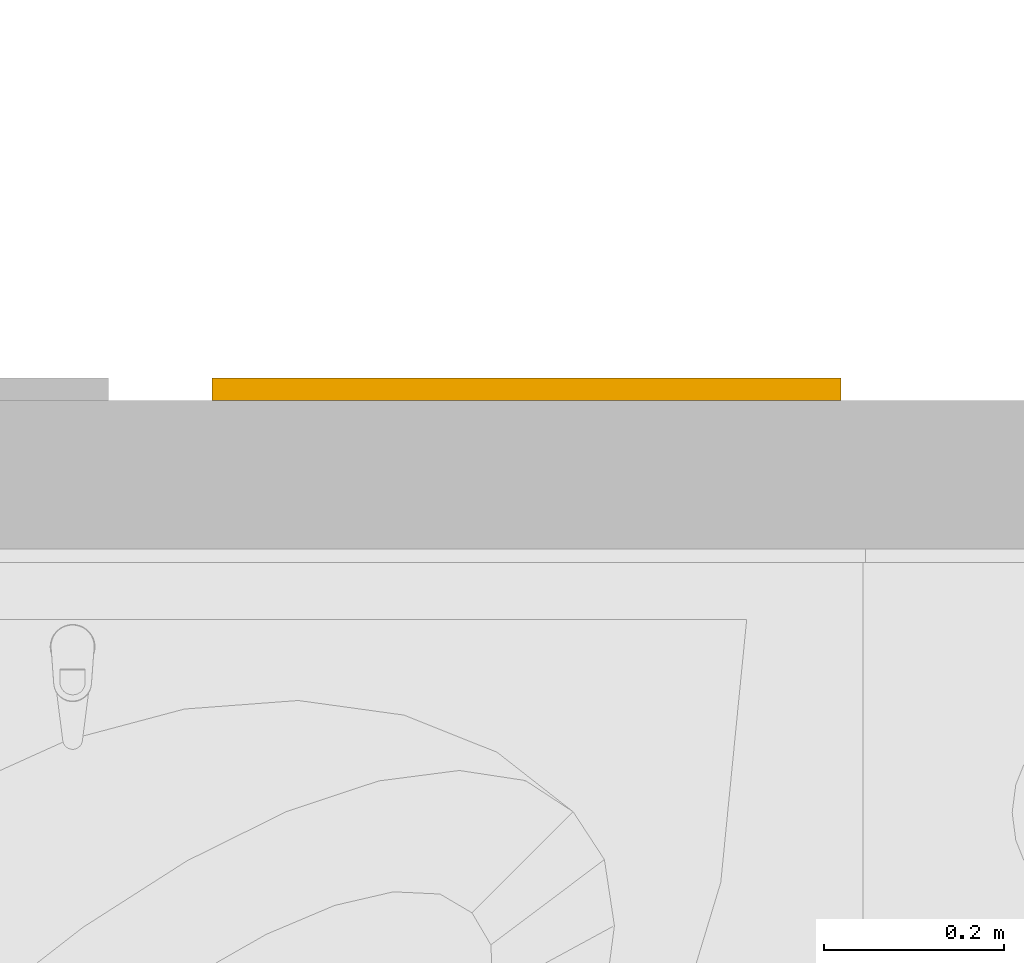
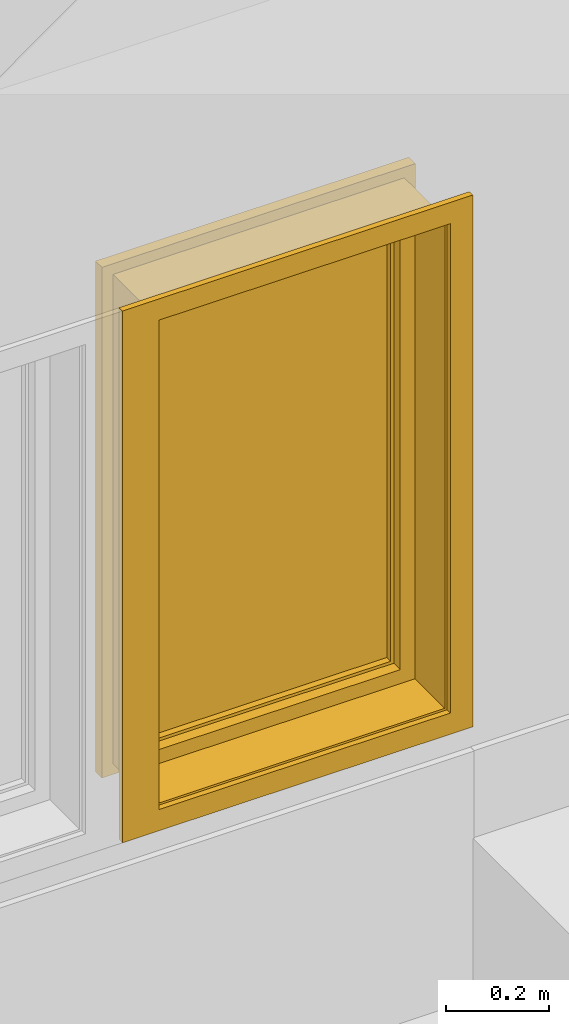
# One storey, part 38 of 77: 1 window.
"""IFC2X3 building model written with IfcOpenShell, lengths in inches."""

from ifc_helpers import new_model, entity, si_unit, converted_unit, derived_unit, money_unit, direction, frame, origin_with_axes, place, context, subcontext, project, spatial, open_shell, faceted_brep, surface_model, type_object, element, save


model = new_model("IFC2X3")

# Units and contexts
model_context = context("Model", 3, precision=0.000393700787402, world=origin_with_axes(), true_north=direction((0.0, 1.0)))
body_context = subcontext(model_context, "Body", "Model", "MODEL_VIEW")
ifc_project = project(units=[converted_unit("LENGTHUNIT", "INCH", entity("IfcPositiveLengthMeasure", 0.0254), si_unit("LENGTHUNIT", "METRE"), dimensions=[1, 0, 0, 0, 0, 0, 0]), converted_unit("AREAUNIT", "SQUARE_FOOT", entity("IfcPositiveLengthMeasure", 0.09290304), si_unit("AREAUNIT", "SQUARE_METRE"), dimensions=[2, 0, 0, 0, 0, 0, 0]), si_unit("PLANEANGLEUNIT", "RADIAN"), si_unit("SOLIDANGLEUNIT", "STERADIAN"), money_unit("USD"), converted_unit("TIMEUNIT", "Year", entity("IfcTimeMeasure", 31556926.0), si_unit("TIMEUNIT", "SECOND"), dimensions=[0, 0, 1, 0, 0, 0, 0]), si_unit("MASSUNIT", "GRAM", prefix="KILO"), si_unit("THERMODYNAMICTEMPERATUREUNIT", "DEGREE_CELSIUS"), si_unit("LUMINOUSINTENSITYUNIT", "LUMEN"), si_unit("ENERGYUNIT", "JOULE", prefix="MEGA"), derived_unit("THERMALCONDUCTANCEUNIT", [(si_unit("POWERUNIT", "WATT"), 1), (si_unit("LENGTHUNIT", "METRE"), -1), (si_unit("THERMODYNAMICTEMPERATUREUNIT", "KELVIN"), -1)]), derived_unit("SPECIFICHEATCAPACITYUNIT", [(si_unit("ENERGYUNIT", "JOULE"), 1), (si_unit("MASSUNIT", "GRAM", prefix="KILO"), -1), (si_unit("THERMODYNAMICTEMPERATUREUNIT", "KELVIN"), -1)]), derived_unit("MASSDENSITYUNIT", [(si_unit("MASSUNIT", "GRAM", prefix="KILO"), 1), (si_unit("VOLUMEUNIT", "CUBIC_METRE"), -1)])], contexts=[model_context])

# Site, building, storey
site_placement = place(None, origin_with_axes())
site = spatial("IfcSite", under=ifc_project, at=site_placement, Name="Site", CompositionType="ELEMENT")
building_placement = place(site_placement, origin_with_axes())
building = spatial("IfcBuilding", under=site, at=building_placement, Name="Building", CompositionType="ELEMENT")
storey_placement = place(building_placement, frame((0.0, 0.0, 127.952755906), z_axis=(0.0, 0.0, 1.0), x_axis=(1.0, 0.0, 0.0)))
storey = spatial("IfcBuildingStorey", under=building, at=storey_placement, Name="Second Floor", CompositionType="ELEMENT", Elevation=127.953)

# Window
window_style = type_object("IfcWindowStyle", Name="Window 25", ConstructionType="NOTDEFINED", OperationType="SINGLE_PANEL", ParameterTakesPrecedence=False, Sizeable=False)
window_placement = place(storey_placement, frame((449.848838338, 582.981927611, 48.2283464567), z_axis=(0.0, 0.0, 1.0), x_axis=(1.0, 0.0, 0.0)))
element("IfcWindow", 1, at=window_placement, inside=storey, type_object=window_style, Name="W-33", OverallHeight=45.4724, OverallWidth=25.5906, context=body_context, shape_type="SurfaceModel", body=[
    faceted_brep([(25.5905511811, 4.53149606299, 0.0), (25.5905511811, 0.0, 0.0), (0.0, 0.0, 0.0), (0.0, 4.53149606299, 0.0), (25.5905511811, 4.53149606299, 45.4724409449), (25.5905511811, 0.0, 45.4724409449), (0.0, 0.0, 45.4724409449), (25.3937007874, 0.0, 0.196850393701), (0.196850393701, 0.0, 0.196850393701), (0.196850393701, 0.0, 45.2755905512), (25.3937007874, 0.0, 45.2755905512), (0.0, 4.53149606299, 45.4724409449), (25.3937007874, 4.53149606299, 0.196850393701), (25.3937007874, 4.53149606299, 45.2755905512), (0.196850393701, 4.53149606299, 45.2755905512), (0.196850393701, 4.53149606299, 0.196850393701)], [[[0, 1, 2, 3]], [[4, 5, 1, 0]], [[1, 5, 6, 2], [7, 8, 9, 10]], [[3, 2, 6, 11]], [[0, 3, 11, 4], [12, 13, 14, 15]], [[11, 6, 5, 4]], [[15, 8, 7, 12]], [[14, 9, 8, 15]], [[13, 10, 9, 14]], [[12, 7, 10, 13]]]),
    faceted_brep([(27.5590551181, -0.511811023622, -1.96850393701), (25.5905511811, -0.511811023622, 0.0), (25.5905511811, 0.0, 0.0), (27.5590551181, 0.0, -1.96850393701), (27.5590551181, -0.511811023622, 47.4409448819), (25.5905511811, -0.511811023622, 45.4724409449), (25.5905511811, 0.0, 45.4724409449), (27.5590551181, 0.0, 47.4409448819)], [[[0, 1, 2, 3]], [[0, 4, 5, 1]], [[1, 5, 6, 2]], [[3, 2, 6, 7]], [[4, 0, 3, 7]], [[5, 4, 7, 6]]]),
    faceted_brep([(-3.22834645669, -0.511811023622, 47.4409448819), (0.0, -0.511811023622, 45.4724409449), (0.0, 0.0, 45.4724409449), (-3.22834645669, 0.0, 47.4409448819), (-3.22834645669, -0.511811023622, -1.96850393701), (0.0, -0.511811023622, 0.0), (0.0, 0.0, 0.0), (-3.22834645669, 0.0, -1.96850393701)], [[[0, 1, 2, 3]], [[0, 4, 5, 1]], [[1, 5, 6, 2]], [[3, 2, 6, 7]], [[4, 0, 3, 7]], [[5, 4, 7, 6]]]),
    faceted_brep([(-3.22834645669, -0.511811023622, -1.96850393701), (0.0, -0.511811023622, 0.0), (0.0, 0.0, 0.0), (-3.22834645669, 0.0, -1.96850393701), (27.5590551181, -0.511811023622, -1.96850393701), (25.5905511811, -0.511811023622, 0.0), (25.5905511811, 0.0, 0.0), (27.5590551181, 0.0, -1.96850393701)], [[[0, 1, 2, 3]], [[0, 4, 5, 1]], [[1, 5, 6, 2]], [[3, 2, 6, 7]], [[4, 0, 3, 7]], [[5, 4, 7, 6]]]),
    faceted_brep([(27.5590551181, -0.511811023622, 47.4409448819), (25.5905511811, -0.511811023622, 45.4724409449), (25.5905511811, 0.0, 45.4724409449), (27.5590551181, 0.0, 47.4409448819), (-3.22834645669, -0.511811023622, 47.4409448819), (0.0, -0.511811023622, 45.4724409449), (0.0, 0.0, 45.4724409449), (-3.22834645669, 0.0, 47.4409448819)], [[[0, 1, 2, 3]], [[0, 4, 5, 1]], [[1, 5, 6, 2]], [[3, 2, 6, 7]], [[4, 0, 3, 7]], [[5, 4, 7, 6]]]),
    faceted_brep([(26.5748031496, 7.4842519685, -0.984251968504), (26.5748031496, 6.5, -0.984251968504), (24.6062992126, 6.5, 0.984251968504), (24.6062992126, 7.4842519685, 0.984251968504), (26.5748031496, 7.4842519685, 46.4566929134), (26.5748031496, 6.5, 46.4566929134), (24.6062992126, 6.5, 44.4881889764), (24.6062992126, 7.4842519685, 44.4881889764)], [[[0, 1, 2, 3]], [[4, 5, 1, 0]], [[1, 5, 6, 2]], [[3, 2, 6, 7]], [[0, 3, 7, 4]], [[7, 6, 5, 4]]]),
    faceted_brep([(-0.984251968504, 7.4842519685, 46.4566929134), (-0.984251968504, 6.5, 46.4566929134), (0.984251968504, 6.5, 44.4881889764), (0.984251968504, 7.4842519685, 44.4881889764), (-0.984251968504, 7.4842519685, -0.984251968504), (-0.984251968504, 6.5, -0.984251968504), (0.984251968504, 6.5, 0.984251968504), (0.984251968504, 7.4842519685, 0.984251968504)], [[[0, 1, 2, 3]], [[4, 5, 1, 0]], [[1, 5, 6, 2]], [[3, 2, 6, 7]], [[0, 3, 7, 4]], [[7, 6, 5, 4]]]),
    faceted_brep([(-0.984251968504, 7.4842519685, -0.984251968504), (-0.984251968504, 6.5, -0.984251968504), (0.984251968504, 6.5, 0.984251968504), (0.984251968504, 7.4842519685, 0.984251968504), (26.5748031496, 7.4842519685, -0.984251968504), (26.5748031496, 6.5, -0.984251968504), (24.6062992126, 6.5, 0.984251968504), (24.6062992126, 7.4842519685, 0.984251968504)], [[[0, 1, 2, 3]], [[4, 5, 1, 0]], [[1, 5, 6, 2]], [[3, 2, 6, 7]], [[0, 3, 7, 4]], [[7, 6, 5, 4]]]),
    faceted_brep([(26.5748031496, 7.4842519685, 46.4566929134), (26.5748031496, 6.5, 46.4566929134), (24.6062992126, 6.5, 44.4881889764), (24.6062992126, 7.4842519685, 44.4881889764), (-0.984251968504, 7.4842519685, 46.4566929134), (-0.984251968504, 6.5, 46.4566929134), (0.984251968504, 6.5, 44.4881889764), (0.984251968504, 7.4842519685, 44.4881889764)], [[[0, 1, 2, 3]], [[4, 5, 1, 0]], [[1, 5, 6, 2]], [[3, 2, 6, 7]], [[0, 3, 7, 4]], [[7, 6, 5, 4]]]),
    faceted_brep([(25.0787401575, 6.5, 43.9763779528), (25.0787401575, 5.5157480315, 43.9763779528), (24.094488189, 5.5157480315, 43.9763779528), (24.094488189, 4.53149606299, 43.9763779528), (25.5905511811, 4.53149606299, 43.9763779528), (25.5905511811, 6.5, 43.9763779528), (25.0787401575, 6.5, 1.49606299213), (25.0787401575, 5.5157480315, 1.49606299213), (24.094488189, 5.5157480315, 1.49606299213), (24.094488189, 4.53149606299, 1.49606299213), (25.5905511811, 4.53149606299, 1.49606299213), (25.5905511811, 6.5, 1.49606299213)], [[[0, 1, 2, 3, 4, 5]], [[1, 0, 6, 7]], [[8, 2, 1, 7]], [[2, 8, 9, 3]], [[4, 3, 9, 10]], [[5, 4, 10, 11]], [[6, 0, 5, 11]], [[7, 6, 11, 10, 9, 8]]]),
    faceted_brep([(1.49606299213, 5.5157480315, 43.9763779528), (0.511811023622, 5.5157480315, 43.9763779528), (0.511811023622, 6.5, 43.9763779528), (0.0, 6.5, 43.9763779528), (0.0, 4.53149606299, 43.9763779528), (1.49606299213, 4.53149606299, 43.9763779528), (1.49606299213, 5.5157480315, 1.49606299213), (0.511811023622, 5.5157480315, 1.49606299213), (0.511811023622, 6.5, 1.49606299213), (0.0, 6.5, 1.49606299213), (0.0, 4.53149606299, 1.49606299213), (1.49606299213, 4.53149606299, 1.49606299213)], [[[0, 1, 2, 3, 4, 5]], [[1, 0, 6, 7]], [[8, 2, 1, 7]], [[2, 8, 9, 3]], [[9, 10, 4, 3]], [[10, 11, 5, 4]], [[6, 0, 5, 11]], [[7, 6, 11, 10, 9, 8]]]),
    faceted_brep([(1.49606299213, 5.5157480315, 1.49606299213), (0.511811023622, 5.5157480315, 1.49606299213), (0.511811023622, 6.5, 1.49606299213), (0.0, 6.5, 1.49606299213), (0.0, 4.53149606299, 1.49606299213), (1.49606299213, 4.53149606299, 1.49606299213), (24.094488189, 5.5157480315, 1.49606299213), (25.0787401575, 5.5157480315, 1.49606299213), (25.0787401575, 5.5157480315, 0.511811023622), (0.511811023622, 5.5157480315, 0.511811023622), (0.511811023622, 6.5, 0.511811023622), (25.0787401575, 6.5, 0.511811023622), (25.0787401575, 6.5, 1.49606299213), (25.5905511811, 6.5, 1.49606299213), (25.5905511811, 6.5, 0.0), (0.0, 6.5, 0.0), (0.0, 4.53149606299, 0.0), (25.5905511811, 4.53149606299, 1.49606299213), (24.094488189, 4.53149606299, 1.49606299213), (25.5905511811, 4.53149606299, 0.0)], [[[0, 1, 2, 3, 4, 5]], [[1, 0, 6, 7, 8, 9]], [[10, 2, 1, 9]], [[11, 12, 13, 14, 15, 3, 2, 10]], [[15, 16, 4, 3]], [[17, 18, 5, 4, 16, 19]], [[6, 0, 5, 18]], [[7, 6, 18, 17, 13, 12]], [[7, 12, 11, 8]], [[11, 10, 9, 8]], [[13, 17, 19, 14]], [[14, 19, 16, 15]]]),
    faceted_brep([(25.0787401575, 6.5, 43.9763779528), (25.0787401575, 6.5, 44.9606299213), (0.511811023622, 6.5, 44.9606299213), (0.511811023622, 6.5, 43.9763779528), (0.0, 6.5, 43.9763779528), (0.0, 6.5, 45.4724409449), (25.5905511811, 6.5, 45.4724409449), (25.5905511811, 6.5, 43.9763779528), (25.0787401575, 5.5157480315, 43.9763779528), (25.0787401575, 5.5157480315, 44.9606299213), (0.511811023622, 5.5157480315, 44.9606299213), (0.511811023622, 5.5157480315, 43.9763779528), (1.49606299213, 5.5157480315, 43.9763779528), (1.49606299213, 4.53149606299, 43.9763779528), (0.0, 4.53149606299, 43.9763779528), (0.0, 4.53149606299, 45.4724409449), (25.5905511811, 4.53149606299, 45.4724409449), (25.5905511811, 4.53149606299, 43.9763779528), (24.094488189, 4.53149606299, 43.9763779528), (24.094488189, 5.5157480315, 43.9763779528)], [[[0, 1, 2, 3, 4, 5, 6, 7]], [[1, 0, 8, 9]], [[2, 1, 9, 10]], [[3, 2, 10, 11]], [[11, 12, 13, 14, 4, 3]], [[4, 14, 15, 5]], [[5, 15, 16, 6]], [[6, 16, 17, 7]], [[8, 0, 7, 17, 18, 19]], [[12, 11, 10, 9, 8, 19]], [[12, 19, 18, 13]], [[14, 13, 18, 17, 16, 15]]]),
    faceted_brep([(23.8188976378, 5.5157480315, 43.7007874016), (25.0787401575, 5.5157480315, 43.7007874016), (25.0787401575, 7.4842519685, 43.7007874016), (23.8188976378, 7.4842519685, 43.7007874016), (23.8188976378, 5.5157480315, 1.77165354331), (25.0787401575, 5.5157480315, 1.77165354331), (25.0787401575, 7.4842519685, 1.77165354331), (23.8188976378, 7.4842519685, 1.77165354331)], [[[0, 1, 2, 3]], [[0, 4, 5, 1]], [[1, 5, 6, 2]], [[3, 2, 6, 7]], [[4, 0, 3, 7]], [[5, 4, 7, 6]]]),
    faceted_brep([(1.77165354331, 5.5157480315, 1.77165354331), (0.511811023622, 5.5157480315, 1.77165354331), (0.511811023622, 7.4842519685, 1.77165354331), (1.77165354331, 7.4842519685, 1.77165354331), (1.77165354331, 5.5157480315, 43.7007874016), (0.511811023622, 5.5157480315, 43.7007874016), (0.511811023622, 7.4842519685, 43.7007874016), (1.77165354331, 7.4842519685, 43.7007874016)], [[[0, 1, 2, 3]], [[0, 4, 5, 1]], [[1, 5, 6, 2]], [[3, 2, 6, 7]], [[4, 0, 3, 7]], [[5, 4, 7, 6]]]),
    faceted_brep([(0.511811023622, 5.5157480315, 0.511811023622), (0.511811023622, 5.5157480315, 1.77165354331), (0.511811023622, 7.4842519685, 1.77165354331), (0.511811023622, 7.4842519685, 0.511811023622), (25.0787401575, 5.5157480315, 0.511811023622), (25.0787401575, 5.5157480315, 1.77165354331), (23.8188976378, 5.5157480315, 1.77165354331), (1.77165354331, 5.5157480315, 1.77165354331), (1.77165354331, 7.4842519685, 1.77165354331), (23.8188976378, 7.4842519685, 1.77165354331), (25.0787401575, 7.4842519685, 1.77165354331), (25.0787401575, 7.4842519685, 0.511811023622)], [[[0, 1, 2, 3]], [[0, 4, 5, 6, 7, 1]], [[1, 7, 8, 2]], [[3, 2, 8, 9, 10, 11]], [[4, 0, 3, 11]], [[5, 4, 11, 10]], [[6, 5, 10, 9]], [[7, 6, 9, 8]]]),
    faceted_brep([(25.0787401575, 5.5157480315, 44.9606299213), (25.0787401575, 5.5157480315, 43.7007874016), (25.0787401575, 7.4842519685, 43.7007874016), (25.0787401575, 7.4842519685, 44.9606299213), (0.511811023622, 5.5157480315, 44.9606299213), (0.511811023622, 5.5157480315, 43.7007874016), (1.77165354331, 5.5157480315, 43.7007874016), (23.8188976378, 5.5157480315, 43.7007874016), (23.8188976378, 7.4842519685, 43.7007874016), (1.77165354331, 7.4842519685, 43.7007874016), (0.511811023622, 7.4842519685, 43.7007874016), (0.511811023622, 7.4842519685, 44.9606299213)], [[[0, 1, 2, 3]], [[0, 4, 5, 6, 7, 1]], [[1, 7, 8, 2]], [[3, 2, 8, 9, 10, 11]], [[4, 0, 3, 11]], [[5, 4, 11, 10]], [[6, 5, 10, 9]], [[7, 6, 9, 8]]]),
    surface_model("IfcShellBasedSurfaceModel", [(23.8188976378, 6.1062992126, 1.77165354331), (23.8188976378, 6.1062992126, 43.7007874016), (1.77165354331, 6.1062992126, 43.7007874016), (1.77165354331, 6.1062992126, 1.77165354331)], [open_shell([[[0, 1, 2, 3]]])]),
    surface_model("IfcShellBasedSurfaceModel", [(23.8188976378, 6.8937007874, 1.77165354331), (1.77165354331, 6.8937007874, 1.77165354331), (1.77165354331, 6.8937007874, 43.7007874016), (23.8188976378, 6.8937007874, 43.7007874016)], [open_shell([[[0, 1, 2, 3]]])]),
])

save(model, "model.ifc")
